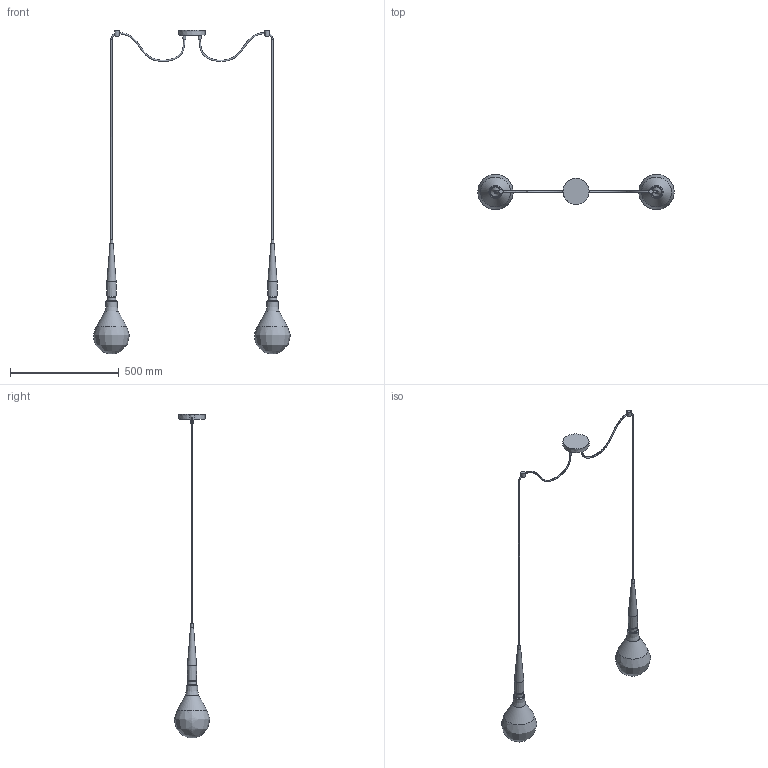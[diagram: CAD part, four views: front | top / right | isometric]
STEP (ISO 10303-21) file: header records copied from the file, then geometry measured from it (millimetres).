
FILE_DESCRIPTION(/* description */ (''),/* implementation_level */ '2;1');
FILE_NAME(/* name */ '1600_doppia',/* time_stamp */ '2021-03-15T11:41:23+01:00',/* author */ (''),/* organization */ (''),/* preprocessor_version */ 'ST-DEVELOPER v16.5',/* originating_system */ '',/* authorisation */ '');
FILE_SCHEMA (('CONFIG_CONTROL_DESIGN'));
Length unit declared in the file: millimetre
Products named in the file (1): Document
Bounding box: 906.42 x 164.85 x 1492.56 mm (x, y, z)
Volume: 6256835.4 mm3; surface area: 352753.2 mm2
Topology: 13 solids, 21 shells, 52 faces, 87 edges, 56 vertices
Faces by surface type: bspline 27, plane 21, cylinder 4
Full cylindrical faces by diameter (mm): 6 x2, 40 x2
Entity records: 4081 total; most frequent: CARTESIAN_POINT 3360, ORIENTED_EDGE 170, EDGE_CURVE 91, VERTEX_POINT 69, ADVANCED_FACE 52, FACE_OUTER_BOUND 52, EDGE_LOOP 52, DIRECTION 31
